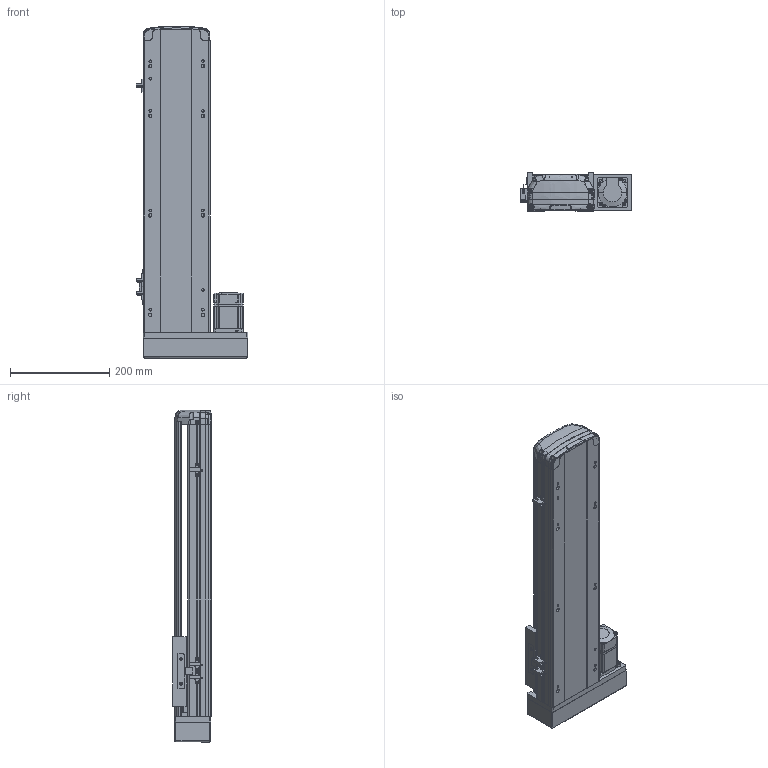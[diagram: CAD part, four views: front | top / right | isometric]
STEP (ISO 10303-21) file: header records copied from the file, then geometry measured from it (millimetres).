
FILE_DESCRIPTION (( 'STEP AP214' ), '1' );
FILE_NAME ('RTH14-XX-400-R-M20-C4.STEP', '2025-10-24T09:53:24', ( 'Microsoft' ), ( 'Microsoft' ), 'SwSTEP 2.0', 'SolidWorks 2018', '' );
FILE_SCHEMA (( 'AUTOMOTIVE_DESIGN' ));
Length unit declared in the file: millimetre
Products named in the file (10): N_RTH14-M-007P奻裔^RTH14-XX-XX-R-M20-C4; N_OMRON EE-SX672 传感器^RTH14-XX-XX-R-M20-C4; N_RTH13-L-012感应片（外置）^RTH14-XX-XX-R-M20-C4; N_RTH14-R-004-SFSR16賑釱^RTH14-XX-XX-R-M20-C4; N_MSMD022P1AA_200W^RTH14-XX-XX-R-M20-C4; N_RTH13-L-018 裔赽^RTH14-XX-XX-R-M20-C4; N_RTH13-L-008-P20 萇儂啣酘蛌殏^RTH14-XX-XX-R-M20-C4; RTH14-XX-400-R-M20-C4; N_RTH14-M-011P菁釱^RTH14-XX-XX-R-M20-C4; N_RTH14-GY-001P^RTH14-XX-XX-R-M20-C4
Assembly tree (11 placements, depth 2):
  RTH14-XX-400-R-M20-C4
    N_RTH14-M-011P菁釱^RTH14-XX-XX-R-M20-C4
    N_RTH14-M-007P奻裔^RTH14-XX-XX-R-M20-C4
    N_MSMD022P1AA_200W^RTH14-XX-XX-R-M20-C4
    N_RTH13-L-008-P20 萇儂啣酘蛌殏^RTH14-XX-XX-R-M20-C4
    N_RTH13-L-018 裔赽^RTH14-XX-XX-R-M20-C4
    N_RTH13-L-012感应片（外置）^RTH14-XX-XX-R-M20-C4
    N_OMRON EE-SX672 传感器^RTH14-XX-XX-R-M20-C4  x3
    N_RTH14-R-004-SFSR16賑釱^RTH14-XX-XX-R-M20-C4
    N_RTH14-GY-001P^RTH14-XX-XX-R-M20-C4
Bounding box: 224 x 78.03 x 667.73 mm (x, y, z)
Volume: 3174701 mm3; surface area: 762873.5 mm2
Topology: 10 solids, 12 shells, 1855 faces, 5188 edges, 3401 vertices
Faces by surface type: plane 987, cylinder 473, bspline 346, cone 45, torus 4
Entity records: 56579 total; most frequent: CARTESIAN_POINT 22959, ORIENTED_EDGE 7433, DIRECTION 5926, EDGE_CURVE 3722, VERTEX_POINT 2437, VECTOR 2140, LINE 2140, AXIS2_PLACEMENT_3D 1893
